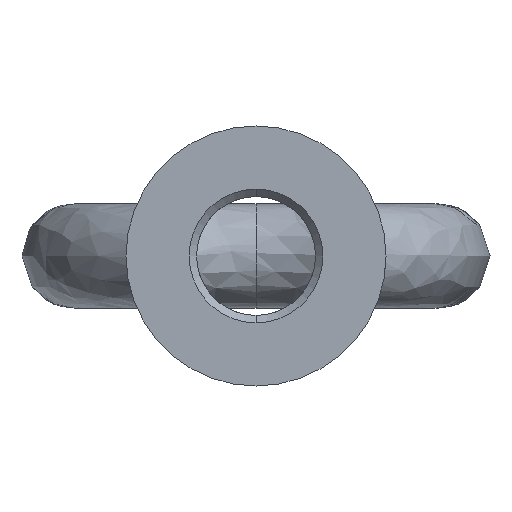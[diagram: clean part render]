
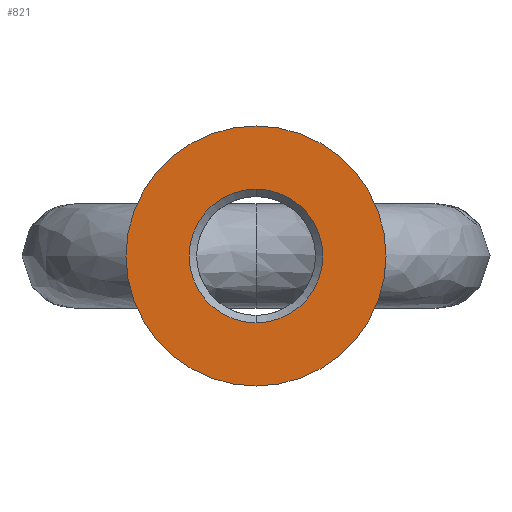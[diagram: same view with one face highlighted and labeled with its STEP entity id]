
A CAD part, front view. The second image highlights one B-rep face of the part: STEP entity #821.
In plain terms, the highlighted planar face has unit normal (0, -1, 0).
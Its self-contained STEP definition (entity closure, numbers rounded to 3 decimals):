
#65 = ORIENTED_EDGE ( 'NONE', *, *, #577, .T. ) ;
#194 = CARTESIAN_POINT ( 'NONE',  ( 0., 0., 0. ) ) ;
#237 = EDGE_LOOP ( 'NONE', ( #1686, #2496 ) ) ;
#339 = CARTESIAN_POINT ( 'NONE',  ( 0., 0., -17.5 ) ) ;
#466 = ORIENTED_EDGE ( 'NONE', *, *, #2150, .T. ) ;
#577 = EDGE_CURVE ( 'NONE', #2434, #2406, #3177, .T. ) ;
#579 = DIRECTION ( 'NONE',  ( 0., 0., 1. ) ) ;
#606 = AXIS2_PLACEMENT_3D ( 'NONE', #1649, #1396, #1181 ) ;
#635 = DIRECTION ( 'NONE',  ( 0., 1., 0. ) ) ;
#773 = DIRECTION ( 'NONE',  ( 0., 1., 0. ) ) ;
#821 = ADVANCED_FACE ( 'NONE', ( #2604, #1663 ), #1633, .T. ) ;
#902 = EDGE_CURVE ( 'NONE', #2566, #1292, #919, .T. ) ;
#919 = CIRCLE ( 'NONE', #1174, 17.5 ) ;
#1073 = CIRCLE ( 'NONE', #2257, 17.5 ) ;
#1174 = AXIS2_PLACEMENT_3D ( 'NONE', #2854, #635, #2346 ) ;
#1181 = DIRECTION ( 'NONE',  ( 0., 0., -1. ) ) ;
#1291 = EDGE_CURVE ( 'NONE', #1292, #2566, #1073, .T. ) ;
#1292 = VERTEX_POINT ( 'NONE', #339 ) ;
#1315 = CARTESIAN_POINT ( 'NONE',  ( 0., 0., 17.5 ) ) ;
#1329 = DIRECTION ( 'NONE',  ( 0., 1., 0. ) ) ;
#1396 = DIRECTION ( 'NONE',  ( 0., -1., 0. ) ) ;
#1541 = DIRECTION ( 'NONE',  ( 0., 0., -1. ) ) ;
#1633 = PLANE ( 'NONE',  #606 ) ;
#1641 = AXIS2_PLACEMENT_3D ( 'NONE', #194, #2164, #3107 ) ;
#1649 = CARTESIAN_POINT ( 'NONE',  ( 0., 0., 0. ) ) ;
#1663 = FACE_OUTER_BOUND ( 'NONE', #237, .T. ) ;
#1686 = ORIENTED_EDGE ( 'NONE', *, *, #1291, .F. ) ;
#1732 = EDGE_LOOP ( 'NONE', ( #466, #65 ) ) ;
#1796 = CARTESIAN_POINT ( 'NONE',  ( 0., 0., 0. ) ) ;
#1832 = CARTESIAN_POINT ( 'NONE',  ( 0., 0., -9. ) ) ;
#1845 = CIRCLE ( 'NONE', #1641, 9. ) ;
#2080 = CARTESIAN_POINT ( 'NONE',  ( 0., 0., 9. ) ) ;
#2150 = EDGE_CURVE ( 'NONE', #2406, #2434, #1845, .T. ) ;
#2164 = DIRECTION ( 'NONE',  ( 0., 1., 0. ) ) ;
#2257 = AXIS2_PLACEMENT_3D ( 'NONE', #2785, #773, #579 ) ;
#2346 = DIRECTION ( 'NONE',  ( 0., 0., 1. ) ) ;
#2406 = VERTEX_POINT ( 'NONE', #1832 ) ;
#2434 = VERTEX_POINT ( 'NONE', #2080 ) ;
#2464 = AXIS2_PLACEMENT_3D ( 'NONE', #1796, #1329, #1541 ) ;
#2496 = ORIENTED_EDGE ( 'NONE', *, *, #902, .F. ) ;
#2566 = VERTEX_POINT ( 'NONE', #1315 ) ;
#2604 = FACE_BOUND ( 'NONE', #1732, .T. ) ;
#2785 = CARTESIAN_POINT ( 'NONE',  ( 0., 0., 0. ) ) ;
#2854 = CARTESIAN_POINT ( 'NONE',  ( 0., 0., 0. ) ) ;
#3107 = DIRECTION ( 'NONE',  ( 0., 0., -1. ) ) ;
#3177 = CIRCLE ( 'NONE', #2464, 9. ) ;
